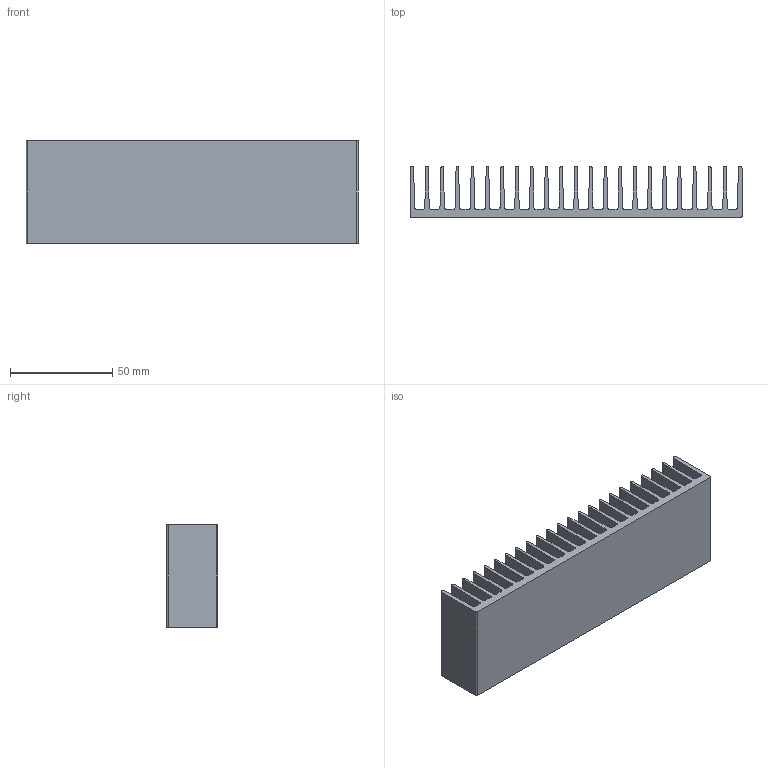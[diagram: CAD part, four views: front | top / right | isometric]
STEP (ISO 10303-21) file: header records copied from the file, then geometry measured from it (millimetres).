
FILE_DESCRIPTION (( 'STEP AP203' ), '1' );
FILE_NAME ('PR 174-50.step', '2002-10-21T08:07:00', ( 'Wolfgang Müller' ), ( 'DPS' ), 'SwSTEP 2.0', 'SolidWorks 2002264', '' );
FILE_SCHEMA (( 'CONFIG_CONTROL_DESIGN' ));
Length unit declared in the file: millimetre
Products named in the file (1): PR 174-50
Bounding box: 162 x 25 x 50 mm (x, y, z)
Volume: 74330.8 mm3; surface area: 65281 mm2
Topology: 1 solids, 1 shells, 140 faces, 414 edges, 276 vertices
Faces by surface type: plane 71, cylinder 69
Entity records: 4793 total; most frequent: DIRECTION 834, CARTESIAN_POINT 831, ORIENTED_EDGE 828, EDGE_CURVE 414, AXIS2_PLACEMENT_3D 279, VECTOR 276, LINE 276, VERTEX_POINT 276
